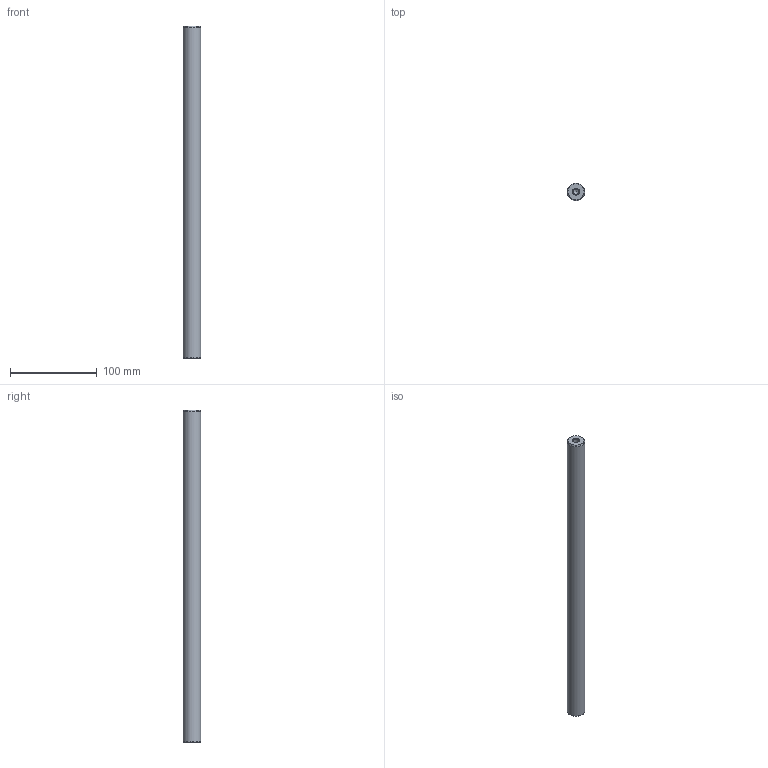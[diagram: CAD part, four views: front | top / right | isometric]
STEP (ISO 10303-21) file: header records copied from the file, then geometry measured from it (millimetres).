
FILE_DESCRIPTION( ( 'STEP AP214' ), '1' );
FILE_NAME( 'U:/Etudes/Top Solid/BIBLIO_Fournisseur/Colonnes UG/Ø20x382.step', '2004-12-22T12:41:19', ( ' ' ), ( ' ' ), 'XStep 1.0', ' ', ' ' );
FILE_SCHEMA( ( 'automotive_design' ) );
Length unit declared in the file: metre
Products named in the file (1): 1
Bounding box: 20 x 20 x 382 mm (x, y, z)
Volume: 118438.8 mm3; surface area: 25446.3 mm2
Topology: 1 solids, 1 shells, 13 faces, 27 edges, 16 vertices
Faces by surface type: cone 6, cylinder 5, plane 2
Full cylindrical faces by diameter (mm): 6.647 x4, 20 x1
Entity records: 382 total; most frequent: DIRECTION 52, CARTESIAN_POINT 40, AXIS2_PLACEMENT_3D 26, EDGE_LOOP 24, ORIENTED_EDGE 24, FACE_OUTER_BOUND 18, VERTEX_POINT 14, STYLED_ITEM 13
